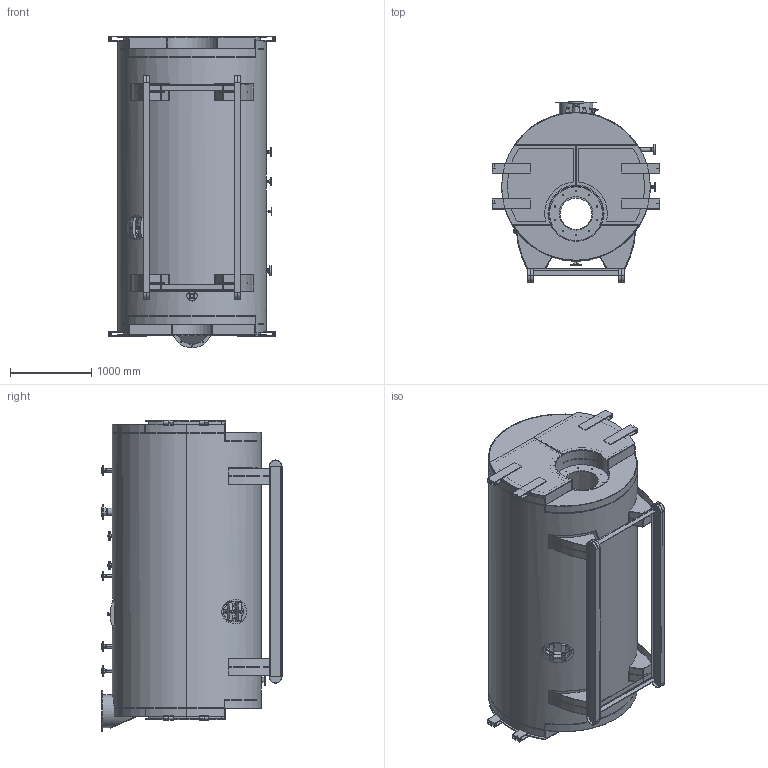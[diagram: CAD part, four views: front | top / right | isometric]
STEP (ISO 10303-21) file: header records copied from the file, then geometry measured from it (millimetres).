
FILE_DESCRIPTION (( 'STEP AP214' ), '1' );
FILE_NAME ('1500kW.STEP', '2024-05-06T06:51:53', ( '' ), ( '' ), 'SwSTEP 2.0', 'SolidWorks 2022', '' );
FILE_SCHEMA (( 'AUTOMOTIVE_DESIGN' ));
Length unit declared in the file: millimetre
Products named in the file (57): FL Door and Hing; 1.5''''(80); welding neck flange_WNeck Flange 150-NPS1.5; Man 1; Front Door (left); IPN160; welding neck flange_WNeck Flange 150-NPS0.5; FD6; 1.5''''(80) for N8; welding neck flange_WNeck Flange 150-NPS1; 80-80-6; Rear Door (Right); FD15; Front Door (Right); Man 3; FD1; Cover; IPN; RD1; head 2; Headhole assy; 1500kW; mid U plate; 3''''(40); Rear Door; Saddle; NozzlePipe(3(40); head 1; pipe 1.5''''(80) for N8; pipe1.5''''(80); pipe 1''''(80); Front Door; FD7; 1''''(80); Rear Door (Left); Manhole assy; U plate; pipe 0.5''''(80); Man 2; 0.5''''(80)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
Assembly tree (98 placements, depth 5):
  1500kW
    Shell
    Saddle  x4
    IPN
      IPN160  x2
      U plate  x4
      mid U plate  x4
    80-80-6  x2
    1''''(80)  x5
      welding neck flange_WNeck Flange 150-NPS1
      pipe 1''''(80)
    1.5''''(80)  x4
      welding neck flange_WNeck Flange 150-NPS1.5
      pipe1.5''''(80)
    3''''(40)
      NozzlePipe(3(40)
      welding neck flange_WNeck Flange 150-NPS3
    Manhole assy
      Man 2
      Man 1  x2
      Man 3
      hex bolt gradeab_din_PreviewCfg  x2
    Headhole assy
      head 2
      head 1  x2
      head 3
      hex bolt gradeab_din_PreviewCfg  x2
    Front Door
      FD1
      FD2
      Front Door (left)
        Front Door (left)
        FL Door and Hing
          FD15  x4
          FD6
          FD7
      Front Door (Right)
        Front Door (Right)
        FL Door and Hing
          FD15  x4
          FD6
          FD7
    Rear Door
      RD1
      Stack(1500)
      RD2
      Rear Door (Left)
        Rear Door (Left)
        FL Door and Hing
          FD15  x4
          FD6
          FD7
      Rear Door (Right)
        Rear Door (Right)
        FL Door and Hing
          FD15  x4
          FD6
          FD7
    Cover
    1.5''''(80) for N8
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Bounding box: 2060 x 2220 x 3840 mm (x, y, z)
Volume: 586956084.2 mm3; surface area: 115538407.2 mm2
Topology: 136 solids, 136 shells, 1679 faces, 4047 edges, 2618 vertices
Faces by surface type: plane 817, cylinder 745, cone 56, bspline 53, torus 8
Full cylindrical faces by diameter (mm): 398 x1, 410 x1
Entity records: 43639 total; most frequent: CARTESIAN_POINT 14629, DIRECTION 5726, ORIENTED_EDGE 5308, EDGE_CURVE 2654, AXIS2_PLACEMENT_3D 2127, VERTEX_POINT 1718, LINE 1472, VECTOR 1472
